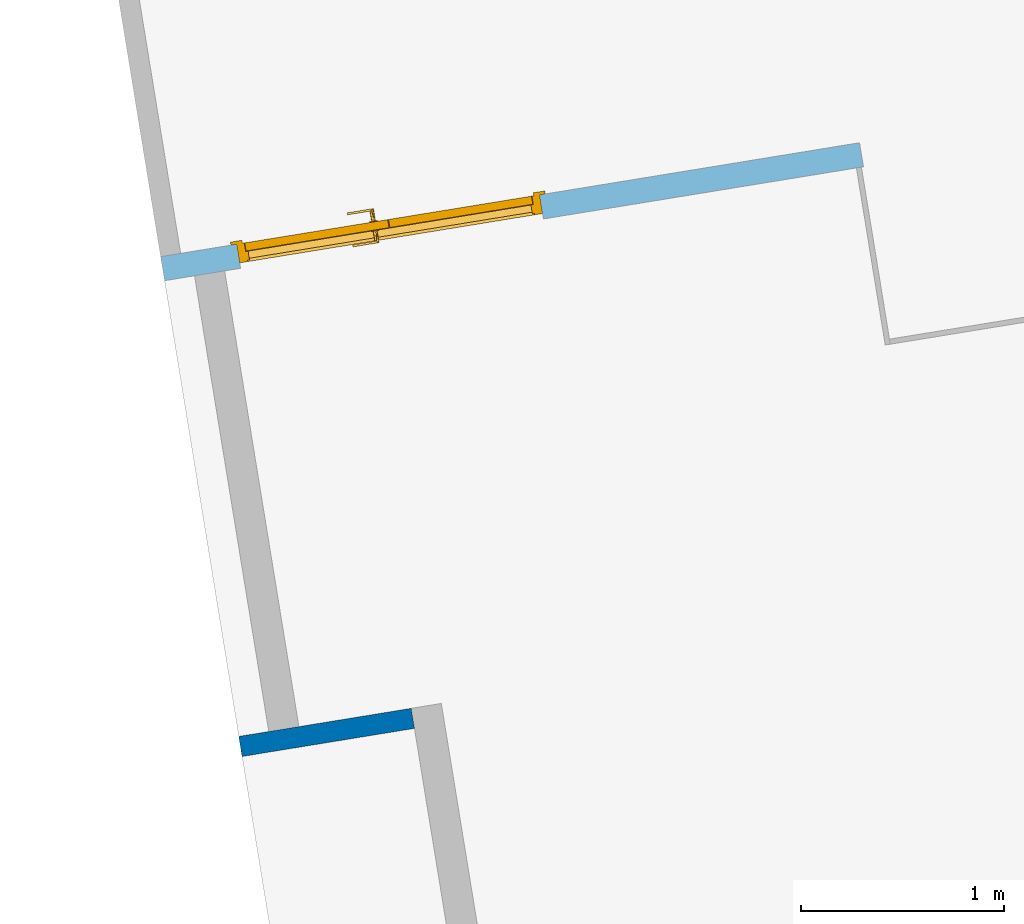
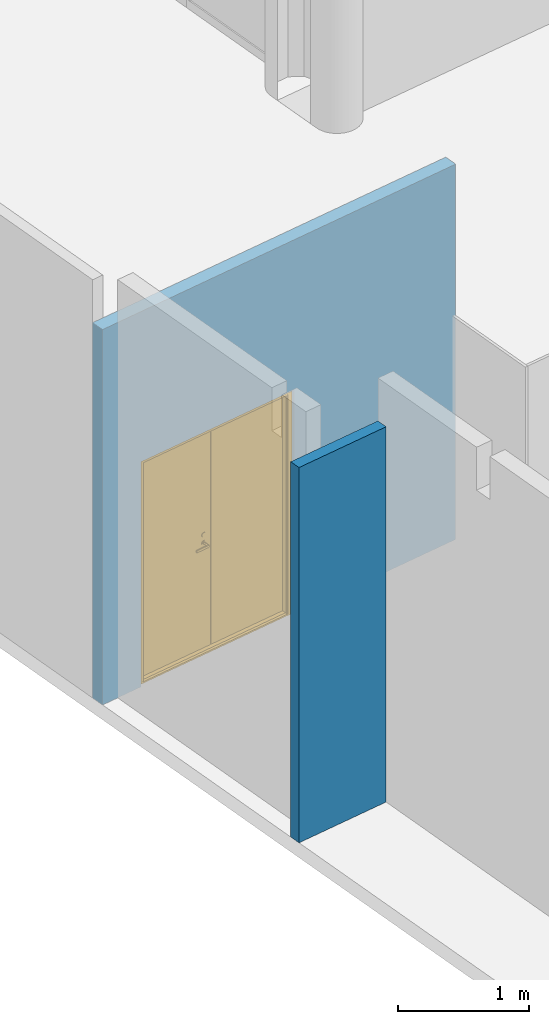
# One storey, part 15 of 18: 1 door, 1 wall, 1 opening, plus 1 element that does not belong to this part.
"""IFC2X3 building model written with IfcOpenShell, lengths in millimetres."""

from ifc_helpers import new_model, entity, si_unit, converted_unit, derived_unit, direction, frame, frame_2d, origin, origin_with_axes, place, context, subcontext, project, spatial, rectangle, extrude, faceted_brep, source, transform, mapped, material, material_list, layer, layer_set, layer_usage, type_object, element, fill, save


model = new_model("IFC2X3")

# Units and contexts
model_context = context("Model", 3, precision=0.01, world=origin(), true_north=direction((6.12323399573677e-17, 1.0)))
plan_context = context("Plan", 3, precision=1e-05, world=origin_with_axes())
body_context = subcontext(model_context, "Body", "Model", "MODEL_VIEW")
ifc_project = project(units=[converted_unit("PLANEANGLEUNIT", "DEGREE", entity("IfcPositiveLengthMeasure", 0.0174532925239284), si_unit("PLANEANGLEUNIT", "RADIAN"), dimensions=[0, 0, 0, 0, 0, 0, 0]), si_unit("AREAUNIT", "SQUARE_METRE"), si_unit("LENGTHUNIT", "METRE", prefix="MILLI"), si_unit("MASSUNIT", "GRAM", prefix="KILO"), si_unit("POWERUNIT", "WATT"), si_unit("PRESSUREUNIT", "PASCAL", prefix="KILO"), si_unit("FORCEUNIT", "NEWTON", prefix="KILO"), si_unit("ELECTRICVOLTAGEUNIT", "VOLT"), si_unit("ELECTRICCURRENTUNIT", "AMPERE"), si_unit("THERMODYNAMICTEMPERATUREUNIT", "DEGREE_CELSIUS"), si_unit("TIMEUNIT", "SECOND"), si_unit("VOLUMEUNIT", "CUBIC_METRE"), derived_unit("LINEARVELOCITYUNIT", [(si_unit("LENGTHUNIT", "METRE"), 1), (si_unit("TIMEUNIT", "SECOND"), -1)]), derived_unit("VOLUMETRICFLOWRATEUNIT", [(si_unit("VOLUMEUNIT", "CUBIC_METRE"), 1), (si_unit("TIMEUNIT", "SECOND"), -1)]), derived_unit("THERMALTRANSMITTANCEUNIT", [(si_unit("POWERUNIT", "WATT"), 1), (si_unit("THERMODYNAMICTEMPERATUREUNIT", "KELVIN"), -1), (si_unit("AREAUNIT", "SQUARE_METRE"), -1)]), derived_unit("SOUNDPRESSUREUNIT", [(si_unit("PRESSUREUNIT", "PASCAL"), 1)])], contexts=[model_context, plan_context])

# Site, building, storey
site_placement = place(None, frame((-305029.896016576, -232111.759730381, 0.0), z_axis=(0.0, 0.0, 1.0), x_axis=(-0.160806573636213, 0.986985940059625, 0.0)))
site = spatial("IfcSite", under=ifc_project, at=site_placement, Name="Default", CompositionType="ELEMENT")
building_placement = place(site_placement, frame((0.0, 0.0, 0.0), z_axis=(0.0, 0.0, 1.0), x_axis=(1.0, -2.77555756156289e-17, 0.0)))
building = spatial("IfcBuilding", under=site, at=building_placement, Name="br001-a-200-1-0001", CompositionType="ELEMENT")
storey_placement = place(building_placement, frame((0.0, 0.0, 55500.0), z_axis=(0.0, 0.0, 1.0), x_axis=(1.0, -2.77555756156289e-17, 0.0)))
storey = spatial("IfcBuildingStorey", under=building, at=storey_placement, Name="H02-Nivå F-3,5 m", CompositionType="ELEMENT", Elevation=55500.0)

# Wall, opening, door
ifc_material_1 = material(Name="_NSW Standard")
ifc_layer_1 = layer(ifc_material_1, 120.0)
ifc_layer_set_1 = layer_set([ifc_layer_1], Name="Basic Wall:A242 - Standard 120")
ifc_layer_usage = layer_usage(ifc_layer_set_1, "AXIS2", "NEGATIVE", 60.0)
wall_type_1 = type_object("IfcWallType", Name="Basic Wall:A242 - Standard 120", PredefinedType="STANDARD", material=ifc_layer_set_1)
wall_1_placement = place(storey_placement, frame((1179547.59858442, -722437.07943924, 0.0), z_axis=(0.0, 0.0, 1.0), x_axis=(-2.77555756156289e-17, -1.0, 0.0)))
wall_1 = element("IfcWallStandardCase", 1, at=wall_1_placement, inside=storey, type_object=wall_type_1, material=ifc_layer_usage, Name="Basic Wall:A242 - Standard 120", ObjectType="Basic Wall:A242 - Standard 120", context=body_context, shape_type="SweptSolid", body=[
    extrude(rectangle(XDim=3484.29892777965, YDim=120.000000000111, at=frame_2d((1742.14946388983, 0.0), x_axis=(-1.0, 0.0))), origin(), (0.0, 0.0, 1.0), 3500.0),
])
opening_placement = place(wall_1_placement, frame((379.298927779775, -59.9999999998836, 0.0), z_axis=(0.0, 0.0, 1.0), x_axis=(1.0, -2.77555756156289e-17, 0.0)))
opening = element("IfcOpeningElement", 2, at=opening_placement, cuts=wall_1, Name="NSW Innvendig slagdør, par:15M x 21M:1", ObjectType="Opening", context=body_context, shape_type="SweptSolid", body=[
    extrude(rectangle(XDim=2100.00000000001, YDim=1510.0, at=frame_2d((1050.0, 755.000000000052), x_axis=(1.0, 0.0))), frame((0.0, 0.0, 0.0), z_axis=(0.0, 1.0, 0.0), x_axis=(0.0, 0.0, 1.0)), (0.0, 0.0, 1.0), 120.0),
])
ifc_material_2 = material(Name="<Unnamed>")
ifc_material_3 = material(Name="_NSW Dør - dørblad, hvit")
ifc_material_4 = material(Name="_NSW Dør - terskel, tre")
ifc_material_5 = material(Name="_NSW Dør - listverk, hvit")
ifc_material_list = material_list([ifc_material_2, ifc_material_3, ifc_material_4, ifc_material_5])
door_style = type_object("IfcDoorStyle", Name="NSW Innvendig slagdør, par:15M x 21M", ConstructionType="NOTDEFINED", OperationType="DOUBLE_DOOR_SINGLE_SWING", ParameterTakesPrecedence=False, Sizeable=False, material=ifc_material_list)
shared_shape = source(origin(), body_context, "Body", "Brep", [
    faceted_brep([(672.699999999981, 75.0, 1058.17949192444), (677.52361909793, 75.0, 1056.18148347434), (682.699999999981, 75.0, 1055.50000000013), (687.876380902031, 75.0, 1056.18148347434), (692.699999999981, 75.0, 1058.17949192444), (696.842135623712, 75.0, 1061.35786437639), (700.020508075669, 75.0, 1065.50000000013), (702.018516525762, 75.0, 1070.32361909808), (702.699999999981, 75.0, 1075.50000000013), (702.018516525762, 75.0, 1080.67638090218), (700.020508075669, 75.0, 1085.50000000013), (696.842135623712, 75.0, 1089.64213562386), (692.699999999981, 75.0, 1092.82050807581), (687.876380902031, 75.0, 1094.81851652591), (682.699999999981, 75.0, 1095.50000000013), (677.52361909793, 75.0, 1094.81851652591), (672.69999999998, 75.0, 1092.82050807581), (668.55786437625, 75.0, 1089.64213562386), (665.379491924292, 75.0, 1085.50000000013), (663.381483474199, 75.0, 1080.67638090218), (662.699999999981, 75.0, 1075.50000000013), (663.381483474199, 75.0, 1070.32361909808), (665.379491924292, 75.0, 1065.50000000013), (668.55786437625, 75.0, 1061.35786437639), (672.69999999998, 80.0, 1092.82050807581), (677.52361909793, 80.0, 1094.81851652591), (682.699999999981, 80.0, 1095.50000000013), (687.876380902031, 80.0, 1094.81851652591), (692.699999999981, 80.0, 1092.82050807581), (696.842135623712, 80.0, 1089.64213562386), (700.020508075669, 80.0, 1085.50000000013), (702.018516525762, 80.0, 1080.67638090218), (702.699999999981, 80.0, 1075.50000000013), (702.018516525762, 80.0, 1070.32361909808), (700.020508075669, 80.0, 1065.50000000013), (696.842135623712, 80.0, 1061.35786437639), (692.699999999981, 80.0, 1058.17949192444), (687.876380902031, 80.0, 1056.18148347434), (682.699999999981, 80.0, 1055.50000000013), (677.52361909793, 80.0, 1056.18148347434), (672.699999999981, 80.0, 1058.17949192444), (668.55786437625, 80.0, 1061.35786437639), (665.379491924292, 80.0, 1065.50000000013), (663.381483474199, 80.0, 1070.32361909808), (662.699999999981, 80.0, 1075.50000000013), (663.381483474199, 80.0, 1080.67638090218), (665.379491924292, 80.0, 1085.50000000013), (668.55786437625, 80.0, 1089.64213562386)], [[[0, 1, 2, 3, 4, 5, 6, 7, 8, 9, 10, 11, 12, 13, 14, 15, 16, 17, 18, 19, 20, 21, 22, 23]], [[24, 25, 26, 27, 28, 29, 30, 31, 32, 33, 34, 35, 36, 37, 38, 39, 40, 41, 42, 43, 44, 45, 46, 47]], [[32, 8, 7, 33]], [[33, 7, 6, 34]], [[36, 35, 5, 4]], [[5, 35, 34, 6]], [[37, 36, 4, 3]], [[37, 3, 2, 38]], [[38, 2, 1, 39]], [[39, 1, 0, 40]], [[42, 41, 23, 22]], [[23, 41, 40, 0]], [[43, 42, 22, 21]], [[43, 21, 20, 44]], [[44, 20, 19, 45]], [[45, 19, 18, 46]], [[24, 47, 17, 16]], [[17, 47, 46, 18]], [[25, 24, 16, 15]], [[25, 15, 14, 26]], [[26, 14, 13, 27]], [[27, 13, 12, 28]], [[30, 29, 11, 10]], [[11, 29, 28, 12]], [[31, 30, 10, 9]], [[31, 9, 8, 32]]]),
    faceted_brep([(689.77106781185, 15.0, 1007.57106781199), (687.699999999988, 15.0, 1009.16025403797), (685.288190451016, 15.0, 1010.15925826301), (682.699999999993, 15.0, 1010.50000000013), (562.699999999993, 15.0, 1010.50000000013), (562.699999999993, 15.0, 990.500000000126), (682.699999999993, 15.0, 990.500000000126), (685.288190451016, 15.0, 990.840741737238), (687.699999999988, 15.0, 991.839745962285), (689.771067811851, 15.0, 993.428932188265), (691.360254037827, 15.0, 995.500000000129), (692.359258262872, 15.0, 997.911809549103), (692.699999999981, 15.0, 1000.50000000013), (692.359258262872, 15.0, 1003.08819045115), (691.360254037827, 15.0, 1005.50000000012), (562.699999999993, 25.0, 990.500000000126), (562.699999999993, 25.0, 1010.50000000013), (682.699999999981, 25.0, 1010.50000000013), (680.111809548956, 25.0, 1010.15925826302), (677.699999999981, 25.0, 1009.16025403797), (675.628932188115, 25.0, 1007.57106781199), (674.039745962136, 25.0, 1005.50000000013), (673.04074173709, 25.0, 1003.08819045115), (672.699999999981, 25.0, 1000.50000000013), (673.04074173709, 25.0, 997.9118095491), (674.039745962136, 25.0, 995.500000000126), (675.628932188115, 25.0, 993.42893218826), (677.699999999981, 25.0, 991.839745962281), (680.111809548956, 25.0, 990.840741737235), (682.699999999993, 25.0, 990.500000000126), (677.699999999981, 75.0, 1009.16025403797), (680.111809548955, 75.0, 1010.15925826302), (682.699999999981, 75.0, 1010.50000000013), (685.288190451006, 75.0, 1010.15925826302), (687.699999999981, 75.0, 1009.16025403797), (689.771067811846, 75.0, 1007.57106781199), (691.360254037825, 75.0, 1005.50000000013), (692.359258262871, 75.0, 1003.08819045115), (692.699999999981, 75.0, 1000.50000000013), (692.359258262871, 75.0, 997.9118095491), (691.360254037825, 75.0, 995.500000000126), (689.771067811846, 75.0, 993.42893218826), (687.699999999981, 75.0, 991.839745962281), (685.288190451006, 75.0, 990.840741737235), (682.699999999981, 75.0, 990.500000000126), (680.111809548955, 75.0, 990.840741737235), (677.699999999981, 75.0, 991.839745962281), (675.628932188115, 75.0, 993.42893218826), (674.039745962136, 75.0, 995.500000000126), (673.04074173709, 75.0, 997.9118095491), (672.699999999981, 75.0, 1000.50000000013), (673.04074173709, 75.0, 1003.08819045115), (674.039745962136, 75.0, 1005.50000000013), (675.628932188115, 75.0, 1007.57106781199)], [[[0, 1, 2, 3, 4, 5, 6, 7, 8, 9, 10, 11, 12, 13, 14]], [[15, 16, 17, 18, 19, 20, 21, 22, 23, 24, 25, 26, 27, 28, 29]], [[29, 6, 5, 15]], [[15, 5, 4, 16]], [[16, 4, 3, 17]], [[30, 31, 32, 33, 34, 35, 36, 37, 38, 39, 40, 41, 42, 43, 44, 45, 46, 47, 48, 49, 50, 51, 52, 53]], [[38, 12, 11, 39]], [[39, 11, 10, 40]], [[29, 41, 40]], [[40, 10, 29]], [[29, 42, 41]], [[8, 7, 29]], [[29, 9, 8]], [[10, 9, 29]], [[7, 6, 29]], [[43, 29, 44]], [[43, 42, 29]], [[44, 29, 28, 45]], [[45, 28, 27, 46]], [[48, 47, 26, 25]], [[24, 49, 48, 25]], [[26, 47, 46, 27]], [[49, 24, 23, 50]], [[50, 23, 22, 51]], [[51, 22, 21, 52]], [[30, 53, 20, 19]], [[20, 53, 52, 21]], [[31, 30, 19, 18]], [[17, 32, 31, 18]], [[32, 17, 33]], [[3, 2, 17]], [[33, 17, 34]], [[36, 35, 17]], [[13, 37, 36, 14]], [[17, 35, 34]], [[37, 13, 12, 38]], [[2, 1, 17]], [[0, 17, 1]], [[17, 0, 14]], [[36, 17, 14]]]),
    faceted_brep([(677.52361909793, 75.0, 981.181483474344), (682.699999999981, 75.0, 980.500000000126), (687.876380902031, 75.0, 981.181483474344), (692.699999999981, 75.0, 983.179491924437), (696.842135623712, 75.0, 986.357864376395), (700.020508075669, 75.0, 990.500000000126), (702.018516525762, 75.0, 995.323619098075), (702.699999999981, 75.0, 1000.50000000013), (702.018516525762, 75.0, 1005.67638090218), (700.020508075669, 75.0, 1010.50000000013), (696.842135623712, 75.0, 1014.64213562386), (692.699999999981, 75.0, 1017.82050807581), (687.876380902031, 75.0, 1019.81851652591), (682.699999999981, 75.0, 1020.50000000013), (677.52361909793, 75.0, 1019.81851652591), (672.699999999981, 75.0, 1017.82050807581), (668.55786437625, 75.0, 1014.64213562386), (665.379491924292, 75.0, 1010.50000000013), (663.381483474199, 75.0, 1005.67638090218), (662.699999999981, 75.0, 1000.50000000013), (663.381483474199, 75.0, 995.323619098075), (665.379491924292, 75.0, 990.500000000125), (668.55786437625, 75.0, 986.357864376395), (672.699999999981, 75.0, 983.179491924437), (672.699999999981, 80.0, 1017.82050807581), (677.52361909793, 80.0, 1019.81851652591), (682.699999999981, 80.0, 1020.50000000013), (687.876380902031, 80.0, 1019.81851652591), (692.699999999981, 80.0, 1017.82050807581), (696.842135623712, 80.0, 1014.64213562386), (700.020508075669, 80.0, 1010.50000000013), (702.018516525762, 80.0, 1005.67638090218), (702.699999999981, 80.0, 1000.50000000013), (702.018516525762, 80.0, 995.323619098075), (700.020508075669, 80.0, 990.500000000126), (696.842135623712, 80.0, 986.357864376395), (692.699999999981, 80.0, 983.179491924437), (687.876380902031, 80.0, 981.181483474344), (682.699999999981, 80.0, 980.500000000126), (677.52361909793, 80.0, 981.181483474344), (672.699999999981, 80.0, 983.179491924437), (668.55786437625, 80.0, 986.357864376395), (665.379491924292, 80.0, 990.500000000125), (663.381483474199, 80.0, 995.323619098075), (662.699999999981, 80.0, 1000.50000000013), (663.381483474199, 80.0, 1005.67638090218), (665.379491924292, 80.0, 1010.50000000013), (668.55786437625, 80.0, 1014.64213562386)], [[[0, 1, 2, 3, 4, 5, 6, 7, 8, 9, 10, 11, 12, 13, 14, 15, 16, 17, 18, 19, 20, 21, 22, 23]], [[24, 25, 26, 27, 28, 29, 30, 31, 32, 33, 34, 35, 36, 37, 38, 39, 40, 41, 42, 43, 44, 45, 46, 47]], [[32, 7, 6, 33]], [[33, 6, 5, 34]], [[36, 35, 4, 3]], [[4, 35, 34, 5]], [[37, 36, 3, 2]], [[37, 2, 1, 38]], [[38, 1, 0, 39]], [[39, 0, 23, 40]], [[42, 41, 22, 21]], [[22, 41, 40, 23]], [[43, 42, 21, 20]], [[43, 20, 19, 44]], [[44, 19, 18, 45]], [[45, 18, 17, 46]], [[24, 47, 16, 15]], [[16, 47, 46, 17]], [[25, 24, 15, 14]], [[25, 14, 13, 26]], [[26, 13, 12, 27]], [[27, 12, 11, 28]], [[30, 29, 10, 9]], [[10, 29, 28, 11]], [[31, 30, 9, 8]], [[31, 8, 7, 32]]]),
    faceted_brep([(665.37949192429, 125.0, 1065.5000000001), (663.381483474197, 125.0, 1070.32361909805), (662.699999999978, 125.0, 1075.5000000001), (663.381483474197, 125.0, 1080.67638090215), (665.37949192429, 125.0, 1085.5000000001), (668.557864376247, 125.0, 1089.64213562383), (672.699999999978, 125.0, 1092.82050807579), (677.523619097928, 125.0, 1094.81851652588), (682.699999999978, 125.0, 1095.5000000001), (687.876380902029, 125.0, 1094.81851652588), (692.699999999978, 125.0, 1092.82050807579), (696.842135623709, 125.0, 1089.64213562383), (700.020508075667, 125.0, 1085.5000000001), (702.01851652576, 125.0, 1080.67638090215), (702.699999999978, 125.0, 1075.5000000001), (702.01851652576, 125.0, 1070.32361909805), (700.020508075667, 125.0, 1065.5000000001), (696.842135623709, 125.0, 1061.35786437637), (692.699999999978, 125.0, 1058.17949192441), (687.876380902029, 125.0, 1056.18148347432), (682.699999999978, 125.0, 1055.5000000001), (677.523619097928, 125.0, 1056.18148347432), (672.699999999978, 125.0, 1058.17949192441), (668.557864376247, 125.0, 1061.35786437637), (682.699999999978, 120.0, 1095.5000000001), (677.523619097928, 120.0, 1094.81851652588), (672.699999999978, 120.0, 1092.82050807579), (668.557864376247, 120.0, 1089.64213562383), (665.37949192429, 120.0, 1085.5000000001), (663.381483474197, 120.0, 1080.67638090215), (662.699999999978, 120.0, 1075.5000000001), (663.381483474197, 120.0, 1070.32361909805), (665.37949192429, 120.0, 1065.5000000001), (668.557864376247, 120.0, 1061.35786437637), (672.699999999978, 120.0, 1058.17949192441), (677.523619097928, 120.0, 1056.18148347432), (682.699999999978, 120.0, 1055.5000000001), (687.876380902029, 120.0, 1056.18148347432), (692.699999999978, 120.0, 1058.17949192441), (696.842135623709, 120.0, 1061.35786437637), (700.020508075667, 120.0, 1065.5000000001), (702.01851652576, 120.0, 1070.32361909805), (702.699999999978, 120.0, 1075.5000000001), (702.01851652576, 120.0, 1080.67638090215), (700.020508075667, 120.0, 1085.5000000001), (696.842135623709, 120.0, 1089.64213562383), (692.699999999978, 120.0, 1092.82050807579), (687.876380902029, 120.0, 1094.81851652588)], [[[0, 1, 2, 3, 4, 5, 6, 7, 8, 9, 10, 11, 12, 13, 14, 15, 16, 17, 18, 19, 20, 21, 22, 23]], [[24, 25, 26, 27, 28, 29, 30, 31, 32, 33, 34, 35, 36, 37, 38, 39, 40, 41, 42, 43, 44, 45, 46, 47]], [[41, 15, 14, 42]], [[40, 16, 15, 41]], [[18, 17, 39, 38]], [[40, 39, 17, 16]], [[19, 18, 38, 37]], [[20, 19, 37, 36]], [[35, 21, 20, 36]], [[34, 22, 21, 35]], [[0, 23, 33, 32]], [[34, 33, 23, 22]], [[1, 0, 32, 31]], [[2, 1, 31, 30]], [[29, 3, 2, 30]], [[28, 4, 3, 29]], [[6, 5, 27, 26]], [[28, 27, 5, 4]], [[7, 6, 26, 25]], [[8, 7, 25, 24]], [[47, 9, 8, 24]], [[46, 10, 9, 47]], [[12, 11, 45, 44]], [[46, 45, 11, 10]], [[13, 12, 44, 43]], [[14, 13, 43, 42]]]),
    faceted_brep([(682.699999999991, 185.0, 990.500000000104), (562.699999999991, 185.0, 990.500000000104), (562.699999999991, 185.0, 1010.5000000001), (682.699999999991, 185.0, 1010.5000000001), (685.288190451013, 185.0, 1010.15925826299), (687.699999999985, 185.0, 1009.16025403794), (689.771067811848, 185.0, 1007.57106781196), (691.360254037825, 185.0, 1005.5000000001), (692.35925826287, 185.0, 1003.08819045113), (692.699999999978, 185.0, 1000.5000000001), (692.35925826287, 185.0, 997.91180954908), (691.360254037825, 185.0, 995.500000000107), (689.771067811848, 185.0, 993.428932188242), (687.699999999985, 185.0, 991.839745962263), (685.288190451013, 185.0, 990.840741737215), (680.111809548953, 175.0, 990.840741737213), (677.699999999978, 175.0, 991.839745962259), (675.628932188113, 175.0, 993.428932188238), (674.039745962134, 175.0, 995.500000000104), (673.040741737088, 175.0, 997.911809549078), (672.699999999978, 175.0, 1000.5000000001), (673.040741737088, 175.0, 1003.08819045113), (674.039745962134, 175.0, 1005.5000000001), (675.628932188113, 175.0, 1007.57106781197), (677.699999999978, 175.0, 1009.16025403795), (680.111809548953, 175.0, 1010.15925826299), (682.699999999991, 175.0, 1010.5000000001), (562.699999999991, 175.0, 1010.5000000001), (562.699999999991, 175.0, 990.500000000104), (682.699999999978, 175.0, 990.500000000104), (682.699999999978, 125.0, 1010.5000000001), (680.111809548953, 125.0, 1010.15925826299), (677.699999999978, 125.0, 1009.16025403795), (675.628932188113, 125.0, 1007.57106781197), (674.039745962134, 125.0, 1005.5000000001), (673.040741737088, 125.0, 1003.08819045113), (672.699999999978, 125.0, 1000.5000000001), (673.040741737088, 125.0, 997.911809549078), (674.039745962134, 125.0, 995.500000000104), (675.628932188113, 125.0, 993.428932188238), (677.699999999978, 125.0, 991.839745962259), (680.111809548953, 125.0, 990.840741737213), (682.699999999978, 125.0, 990.500000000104), (685.288190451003, 125.0, 990.840741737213), (687.699999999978, 125.0, 991.839745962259), (689.771067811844, 125.0, 993.428932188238), (691.360254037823, 125.0, 995.500000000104), (692.359258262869, 125.0, 997.911809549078), (692.699999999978, 125.0, 1000.5000000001), (692.359258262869, 125.0, 1003.08819045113), (691.360254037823, 125.0, 1005.5000000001), (689.771067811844, 125.0, 1007.57106781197), (687.699999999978, 125.0, 1009.16025403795), (685.288190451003, 125.0, 1010.15925826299)], [[[0, 1, 2, 3, 4, 5, 6, 7, 8, 9, 10, 11, 12, 13, 14]], [[15, 16, 17, 18, 19, 20, 21, 22, 23, 24, 25, 26, 27, 28, 29]], [[1, 0, 29, 28]], [[2, 1, 28, 27]], [[3, 2, 27, 26]], [[30, 31, 32, 33, 34, 35, 36, 37, 38, 39, 40, 41, 42, 43, 44, 45, 46, 47, 48, 49, 50, 51, 52, 53]], [[47, 10, 9, 48]], [[46, 11, 10, 47]], [[46, 45, 29]], [[29, 11, 46]], [[45, 44, 29]], [[29, 14, 13]], [[13, 12, 29]], [[29, 12, 11]], [[29, 0, 14]], [[42, 29, 43]], [[29, 44, 43]], [[41, 15, 29, 42]], [[40, 16, 15, 41]], [[18, 17, 39, 38]], [[38, 37, 19, 18]], [[40, 39, 17, 16]], [[36, 20, 19, 37]], [[35, 21, 20, 36]], [[34, 22, 21, 35]], [[24, 23, 33, 32]], [[34, 33, 23, 22]], [[25, 24, 32, 31]], [[25, 31, 30, 26]], [[53, 26, 30]], [[26, 4, 3]], [[52, 26, 53]], [[26, 51, 50]], [[50, 49, 8, 7]], [[52, 51, 26]], [[48, 9, 8, 49]], [[26, 5, 4]], [[5, 26, 6]], [[7, 6, 26]], [[7, 26, 50]]]),
    faceted_brep([(672.699999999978, 125.0, 983.179491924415), (668.557864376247, 125.0, 986.357864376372), (665.379491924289, 125.0, 990.500000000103), (663.381483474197, 125.0, 995.323619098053), (662.699999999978, 125.0, 1000.5000000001), (663.381483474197, 125.0, 1005.67638090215), (665.379491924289, 125.0, 1010.5000000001), (668.557864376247, 125.0, 1014.64213562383), (672.699999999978, 125.0, 1017.82050807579), (677.523619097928, 125.0, 1019.81851652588), (682.699999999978, 125.0, 1020.5000000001), (687.876380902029, 125.0, 1019.81851652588), (692.699999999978, 125.0, 1017.82050807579), (696.842135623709, 125.0, 1014.64213562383), (700.020508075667, 125.0, 1010.5000000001), (702.01851652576, 125.0, 1005.67638090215), (702.699999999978, 125.0, 1000.5000000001), (702.01851652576, 125.0, 995.323619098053), (700.020508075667, 125.0, 990.500000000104), (696.842135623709, 125.0, 986.357864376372), (692.699999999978, 125.0, 983.179491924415), (687.876380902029, 125.0, 981.181483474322), (682.699999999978, 125.0, 980.500000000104), (677.523619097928, 125.0, 981.181483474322), (682.699999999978, 120.0, 1020.5000000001), (677.523619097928, 120.0, 1019.81851652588), (672.699999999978, 120.0, 1017.82050807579), (668.557864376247, 120.0, 1014.64213562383), (665.379491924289, 120.0, 1010.5000000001), (663.381483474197, 120.0, 1005.67638090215), (662.699999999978, 120.0, 1000.5000000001), (663.381483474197, 120.0, 995.323619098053), (665.379491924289, 120.0, 990.500000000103), (668.557864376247, 120.0, 986.357864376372), (672.699999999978, 120.0, 983.179491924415), (677.523619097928, 120.0, 981.181483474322), (682.699999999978, 120.0, 980.500000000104), (687.876380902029, 120.0, 981.181483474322), (692.699999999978, 120.0, 983.179491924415), (696.842135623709, 120.0, 986.357864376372), (700.020508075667, 120.0, 990.500000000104), (702.01851652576, 120.0, 995.323619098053), (702.699999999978, 120.0, 1000.5000000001), (702.01851652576, 120.0, 1005.67638090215), (700.020508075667, 120.0, 1010.5000000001), (696.842135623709, 120.0, 1014.64213562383), (692.699999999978, 120.0, 1017.82050807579), (687.876380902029, 120.0, 1019.81851652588)], [[[0, 1, 2, 3, 4, 5, 6, 7, 8, 9, 10, 11, 12, 13, 14, 15, 16, 17, 18, 19, 20, 21, 22, 23]], [[24, 25, 26, 27, 28, 29, 30, 31, 32, 33, 34, 35, 36, 37, 38, 39, 40, 41, 42, 43, 44, 45, 46, 47]], [[41, 17, 16, 42]], [[40, 18, 17, 41]], [[20, 19, 39, 38]], [[40, 39, 19, 18]], [[21, 20, 38, 37]], [[22, 21, 37, 36]], [[35, 23, 22, 36]], [[34, 0, 23, 35]], [[2, 1, 33, 32]], [[34, 33, 1, 0]], [[3, 2, 32, 31]], [[4, 3, 31, 30]], [[29, 5, 4, 30]], [[28, 6, 5, 29]], [[8, 7, 27, 26]], [[28, 27, 7, 6]], [[9, 8, 26, 25]], [[10, 9, 25, 24]], [[47, 11, 10, 24]], [[46, 12, 11, 47]], [[14, 13, 45, 44]], [[46, 45, 13, 12]], [[15, 14, 44, 43]], [[16, 15, 43, 42]]]),
    faceted_brep([(757.300000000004, 120.0, 18.0), (757.300000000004, 120.0, 2059.0), (1469.5, 120.0, 2059.0), (1469.5, 120.0, 18.0), (757.300000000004, 80.0, 18.0), (1469.5, 80.0, 18.0), (1469.5, 80.0, 2059.0), (757.300000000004, 80.0, 2059.0)], [[[0, 1, 2, 3]], [[4, 5, 6, 7]], [[1, 0, 4, 7]], [[2, 1, 7, 6]], [[3, 2, 6, 5]], [[0, 3, 5, 4]]]),
    faceted_brep([(40.4999999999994, 80.0, 2059.0), (40.4999999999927, 80.0, 18.0), (752.699999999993, 80.0, 18.0), (752.7, 80.0, 2059.0), (40.4999999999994, 120.0, 2059.0), (752.7, 120.0, 2059.0), (752.699999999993, 120.0, 18.0), (40.4999999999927, 120.0, 18.0)], [[[0, 1, 2, 3]], [[4, 5, 6, 7]], [[1, 0, 4, 7]], [[2, 1, 7, 6]], [[3, 2, 6, 5]], [[0, 3, 5, 4]]]),
    faceted_brep([(38.0, 120.0, 0.0), (38.0, 77.4999999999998, 0.0), (50.0, 77.4999999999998, 0.0), (50.0, 33.5000000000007, 0.0), (40.0, 33.5000000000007, 0.0), (40.0, 27.0, 0.0), (0.0, 27.0, 0.0), (0.0, 120.0, 0.0), (38.0, 120.0, 2062.0), (38.0, 77.4999999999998, 2062.0), (1472.0, 77.4999999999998, 2062.0), (1472.0, 77.4999999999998, 0.0), (1460.0, 77.4999999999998, 0.0), (1460.0, 77.4999999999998, 2050.0), (50.0, 77.4999999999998, 2050.0), (50.0, 33.5000000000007, 2050.0), (1460.0, 33.5000000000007, 2050.0), (1460.0, 33.5000000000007, 0.0), (1470.0, 33.5000000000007, 0.0), (1470.0, 33.5000000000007, 2060.0), (40.0, 33.5000000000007, 2060.0), (40.0, 27.0, 2060.0), (1470.0, 27.0, 2060.0), (1470.0, 27.0, 0.0), (1510.0, 27.0, 0.0), (1510.0, 27.0, 2100.0), (0.0, 27.0, 2100.0), (0.0, 120.0, 2100.0), (1510.0, 120.0, 2100.0), (1510.0, 120.0, 0.0), (1472.0, 120.0, 0.0), (1472.0, 120.0, 2062.0)], [[[0, 1, 2, 3, 4, 5, 6, 7]], [[1, 0, 8, 9]], [[2, 1, 9, 10, 11, 12, 13, 14]], [[3, 2, 14, 15]], [[4, 3, 15, 16, 17, 18, 19, 20]], [[5, 4, 20, 21]], [[6, 5, 21, 22, 23, 24, 25, 26]], [[7, 6, 26, 27]], [[0, 7, 27, 28, 29, 30, 31, 8]], [[9, 8, 31, 10]], [[15, 14, 13, 16]], [[21, 20, 19, 22]], [[27, 26, 25, 28]], [[30, 29, 24, 23, 18, 17, 12, 11]], [[10, 31, 30, 11]], [[16, 13, 12, 17]], [[22, 19, 18, 23]], [[28, 25, 24, 29]]]),
    faceted_brep([(1472.0, 120.0, 0.0), (38.0, 120.0, 0.0), (38.0, 120.0, 14.0), (1472.0, 120.0, 14.0), (38.0, 77.4999999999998, 14.0), (50.0, 77.5000000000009, 14.0), (1460.0, 77.4999999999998, 14.0), (1472.0, 77.4999999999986, 14.0), (50.0, 77.5000000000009, 22.0), (1460.0, 77.4999999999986, 22.0), (50.0, 42.0, 22.0), (1460.0, 42.0, 22.0), (50.0, 33.5000000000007, 17.4666666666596), (40.0, 33.5000000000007, 17.4666666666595), (40.0, 27.0, 14.0), (1470.0, 27.0, 14.0), (1470.0, 33.5000000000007, 17.4666666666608), (1460.0, 33.5000000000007, 17.4666666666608), (40.0, 27.0, 0.0), (1470.0, 27.0, 0.0), (1472.0, 77.4999999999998, 0.0), (1460.0, 77.4999999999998, 0.0), (1460.0, 33.5000000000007, 0.0), (1470.0, 33.5000000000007, 0.0), (40.0, 33.5000000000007, 0.0), (50.0, 33.5000000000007, 0.0), (50.0, 77.4999999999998, 0.0), (38.0, 77.4999999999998, 0.0)], [[[0, 1, 2, 3]], [[3, 2, 4, 5, 6, 7]], [[6, 5, 8, 9]], [[9, 8, 10, 11]], [[11, 10, 12, 13, 14, 15, 16, 17]], [[15, 14, 18, 19]], [[1, 0, 20, 21, 22, 23, 19, 18, 24, 25, 26, 27]], [[13, 24, 18, 14]], [[24, 13, 12, 25]], [[5, 26, 25, 12, 10, 8]], [[26, 5, 4, 27]], [[27, 4, 2, 1]], [[7, 20, 0, 3]], [[20, 7, 6, 21]], [[21, 6, 9, 11, 17, 22]], [[22, 17, 16, 23]], [[23, 16, 15, 19]]]),
    faceted_brep([(28.5000000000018, 120.0, 0.0), (-28.4999999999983, 120.0, 0.0), (-28.4999999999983, 135.0, 0.0), (28.5000000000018, 135.0, 0.0), (28.5000000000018, 120.0, 2071.50000000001), (1481.5, 120.0, 2071.50000000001), (1481.5, 120.0, 0.0), (1538.5, 120.0, 0.0), (1538.5, 120.0, 2128.50000000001), (-28.4999999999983, 120.0, 2128.50000000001), (-28.4999999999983, 135.0, 2128.50000000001), (1538.5, 135.0, 2128.50000000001), (1538.5, 135.0, 0.0), (1481.5, 135.0, 0.0), (1481.5, 135.0, 2071.50000000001), (28.5000000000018, 135.0, 2071.50000000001)], [[[0, 1, 2, 3]], [[1, 0, 4, 5, 6, 7, 8, 9]], [[2, 1, 9, 10]], [[3, 2, 10, 11, 12, 13, 14, 15]], [[0, 3, 15, 4]], [[10, 9, 8, 11]], [[4, 15, 14, 5]], [[6, 13, 12, 7]], [[11, 8, 7, 12]], [[5, 14, 13, 6]]]),
])
door_placement = place(opening_placement, frame((0.0, 0.0, 0.0), z_axis=(0.0, 0.0, 1.0), x_axis=(1.0, -2.77555756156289e-17, 0.0)))
door = element("IfcDoor", 3, at=door_placement, inside=storey, type_object=door_style, material=ifc_material_list, Name="NSW Innvendig slagdør, par:15M x 21M", ObjectType="NSW Innvendig slagdør, par:15M x 21M", OverallHeight=2100.00000000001, OverallWidth=1510.00000000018, context=body_context, shape_type="MappedRepresentation", body=[
    mapped(shared_shape, transform((0.0, 0.0, 0.0), scale=1.0)),
])
fill(opening, door)

# Wall
ifc_layer_2 = layer(ifc_material_1, 100.0)
ifc_layer_set_2 = layer_set([ifc_layer_2], Name="Basic Wall:A242 - Standard 100")
wall_type_2 = type_object("IfcWallType", Name="Basic Wall:A242 - Standard 100", PredefinedType="STANDARD", material=ifc_layer_set_2)
wall_2_placement = place(storey_placement, frame((1177165.59858442, -723296.71510099, 0.0), z_axis=(0.0, 0.0, 1.0), x_axis=(2.77555756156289e-17, 1.0, 0.0)))
element("IfcWall", 4, at=wall_2_placement, inside=storey, type_object=wall_type_2, Name="Basic Wall:A242 - Standard 100", ObjectType="Basic Wall:A242 - Standard 100", context=body_context, shape_type="Brep", body=[
    faceted_brep([(859.635661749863, 50.0000000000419, -1.35054474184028e-12), (859.635661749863, 50.000000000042, 3500.0), (0.0, 50.000000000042, 3500.0), (0.0, 50.000000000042, 0.0), (0.0, -50.0000000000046, 3500.0), (0.0, -50.0000000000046, 0.0), (859.635661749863, -50.0000000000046, 3500.0), (859.635661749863, -50.0000000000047, -1.35054474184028e-12)], [[[0, 1, 2, 3]], [[3, 2, 4, 5]], [[6, 7, 5, 4]], [[7, 0, 3, 5]], [[1, 6, 4, 2]], [[7, 6, 1, 0]]], orient=[[False], [False], [False], [False], [False], [False]]),
])

save(model, "model.ifc")
